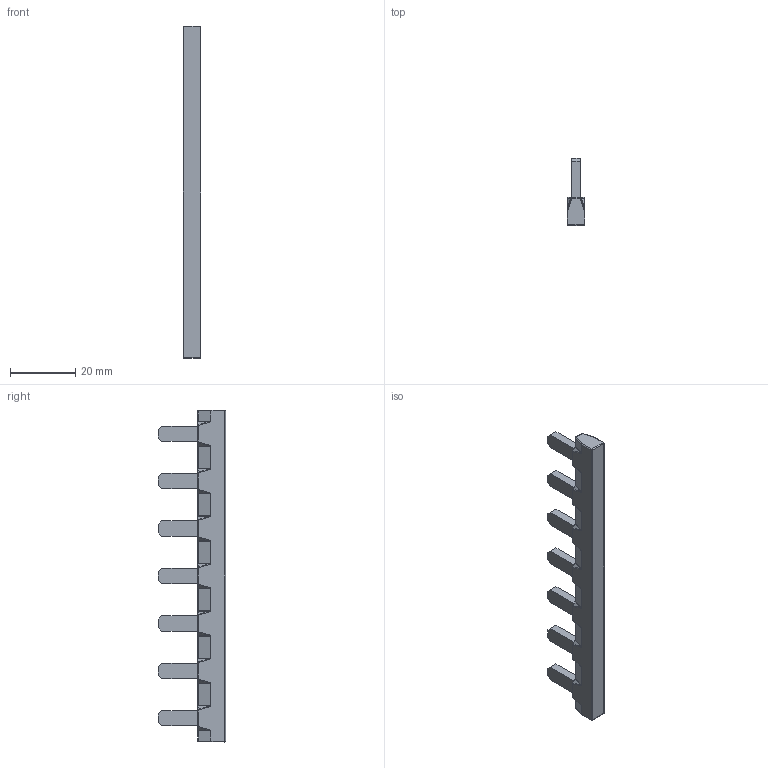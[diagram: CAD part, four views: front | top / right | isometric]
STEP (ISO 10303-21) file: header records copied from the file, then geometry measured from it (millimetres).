
FILE_DESCRIPTION (( 'STEP AP214' ), '1' );
FILE_NAME ('327-J-07.STEP', '2008-04-16T02:17:46', ( ' ' ), ( '' ), 'SwSTEP 2.0', 'SolidWorks 2007', '' );
FILE_SCHEMA (( 'AUTOMOTIVE_DESIGN' ));
Length unit declared in the file: millimetre
Products named in the file (1): 327-J-07
Bounding box: 5.5 x 20.5 x 101.5 mm (x, y, z)
Volume: 5452.9 mm3; surface area: 4078.4 mm2
Topology: 14 solids, 14 shells, 423 faces, 944 edges, 525 vertices
Faces by surface type: cylinder 157, plane 151, bspline 115
Entity records: 13416 total; most frequent: CARTESIAN_POINT 4813, ORIENTED_EDGE 1826, DIRECTION 1591, EDGE_CURVE 913, AXIS2_PLACEMENT_3D 543, VERTEX_POINT 525, VECTOR 505, LINE 505
